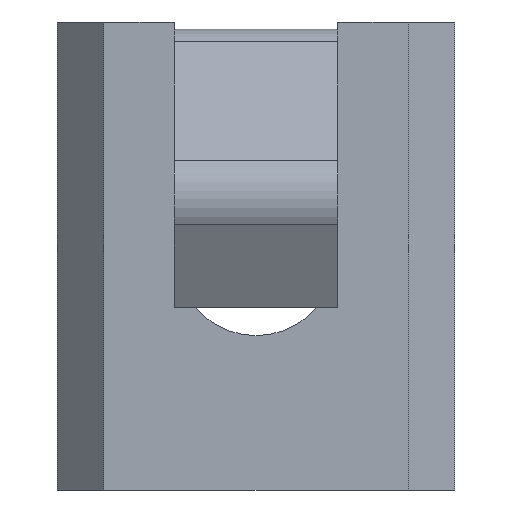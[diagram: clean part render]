
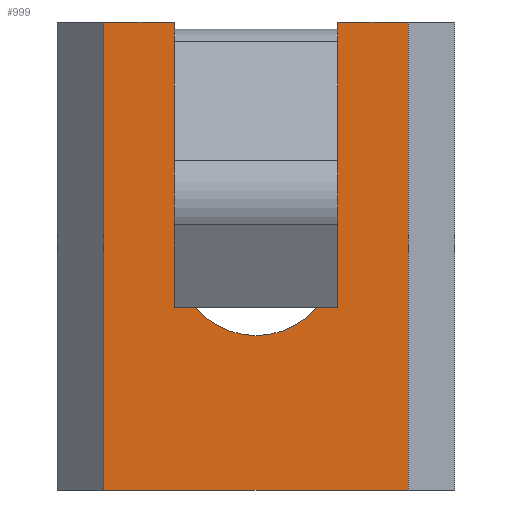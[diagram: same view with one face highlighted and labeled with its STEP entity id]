
A CAD part, front view. The second image highlights one B-rep face of the part: STEP entity #999.
In plain terms, the highlighted planar face has unit normal (0, -1, 0).
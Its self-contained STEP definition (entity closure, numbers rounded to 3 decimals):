
#4 = VERTEX_POINT ( 'NONE', #426 ) ;
#22 = VECTOR ( 'NONE', #395, 1000. ) ;
#41 = EDGE_CURVE ( 'NONE', #568, #517, #136, .T. ) ;
#51 = ORIENTED_EDGE ( 'NONE', *, *, #756, .F. ) ;
#54 = EDGE_CURVE ( 'NONE', #655, #572, #605, .T. ) ;
#59 = VECTOR ( 'NONE', #974, 1000. ) ;
#83 = CARTESIAN_POINT ( 'NONE',  ( -3.5, -7.5, 19.7 ) ) ;
#103 = ORIENTED_EDGE ( 'NONE', *, *, #877, .T. ) ;
#107 = CARTESIAN_POINT ( 'NONE',  ( 3.5, -7.5, 19.7 ) ) ;
#111 = VECTOR ( 'NONE', #1124, 1000. ) ;
#114 = VECTOR ( 'NONE', #139, 1000. ) ;
#132 = EDGE_CURVE ( 'NONE', #1020, #568, #451, .T. ) ;
#136 = LINE ( 'NONE', #660, #111 ) ;
#139 = DIRECTION ( 'NONE',  ( 0., 0., 1. ) ) ;
#140 = LINE ( 'NONE', #1037, #371 ) ;
#153 = VERTEX_POINT ( 'NONE', #847 ) ;
#161 = CARTESIAN_POINT ( 'NONE',  ( 3.5, -7.5, 17.5 ) ) ;
#171 = FACE_BOUND ( 'NONE', #178, .T. ) ;
#177 = CARTESIAN_POINT ( 'NONE',  ( 6.5, -7.5, 0. ) ) ;
#178 = EDGE_LOOP ( 'NONE', ( #305, #633 ) ) ;
#179 = VECTOR ( 'NONE', #742, 1000. ) ;
#190 = FACE_OUTER_BOUND ( 'NONE', #291, .T. ) ;
#217 = EDGE_CURVE ( 'NONE', #4, #153, #969, .T. ) ;
#236 = CARTESIAN_POINT ( 'NONE',  ( -6.5, -7.5, 20. ) ) ;
#241 = VECTOR ( 'NONE', #526, 1000. ) ;
#255 = LINE ( 'NONE', #161, #59 ) ;
#259 = DIRECTION ( 'NONE',  ( -1., 0., 0. ) ) ;
#288 = ORIENTED_EDGE ( 'NONE', *, *, #993, .F. ) ;
#291 = EDGE_LOOP ( 'NONE', ( #288, #525, #729, #51, #907, #598, #1052, #861, #103, #1009 ) ) ;
#292 = CARTESIAN_POINT ( 'NONE',  ( 6.5, -7.5, 20. ) ) ;
#301 = AXIS2_PLACEMENT_3D ( 'NONE', #335, #569, #983 ) ;
#303 = EDGE_CURVE ( 'NONE', #832, #851, #871, .T. ) ;
#305 = ORIENTED_EDGE ( 'NONE', *, *, #54, .T. ) ;
#333 = DIRECTION ( 'NONE',  ( 0., 0., 1. ) ) ;
#335 = CARTESIAN_POINT ( 'NONE',  ( 0., -7.5, 10. ) ) ;
#338 = CIRCLE ( 'NONE', #345, 3.4 ) ;
#345 = AXIS2_PLACEMENT_3D ( 'NONE', #934, #1154, #259 ) ;
#351 = PLANE ( 'NONE',  #620 ) ;
#371 = VECTOR ( 'NONE', #421, 1000. ) ;
#395 = DIRECTION ( 'NONE',  ( 1., 0., 0. ) ) ;
#421 = DIRECTION ( 'NONE',  ( 0., 0., -1. ) ) ;
#426 = CARTESIAN_POINT ( 'NONE',  ( -6.5, -7.5, 20. ) ) ;
#443 = LINE ( 'NONE', #639, #874 ) ;
#451 = LINE ( 'NONE', #292, #22 ) ;
#460 = CARTESIAN_POINT ( 'NONE',  ( 6.5, -7.5, 0. ) ) ;
#507 = CARTESIAN_POINT ( 'NONE',  ( 6.5, -7.5, 20. ) ) ;
#516 = LINE ( 'NONE', #177, #1013 ) ;
#517 = VERTEX_POINT ( 'NONE', #460 ) ;
#525 = ORIENTED_EDGE ( 'NONE', *, *, #978, .T. ) ;
#526 = DIRECTION ( 'NONE',  ( 1., 0., 0. ) ) ;
#537 = VERTEX_POINT ( 'NONE', #107 ) ;
#551 = VERTEX_POINT ( 'NONE', #83 ) ;
#568 = VERTEX_POINT ( 'NONE', #944 ) ;
#569 = DIRECTION ( 'NONE',  ( 0., 1., 0. ) ) ;
#572 = VERTEX_POINT ( 'NONE', #694 ) ;
#598 = ORIENTED_EDGE ( 'NONE', *, *, #41, .F. ) ;
#605 = CIRCLE ( 'NONE', #301, 3.4 ) ;
#608 = LINE ( 'NONE', #833, #114 ) ;
#620 = AXIS2_PLACEMENT_3D ( 'NONE', #1046, #672, #962 ) ;
#633 = ORIENTED_EDGE ( 'NONE', *, *, #935, .T. ) ;
#639 = CARTESIAN_POINT ( 'NONE',  ( 3.5, -7.5, 20. ) ) ;
#652 = CARTESIAN_POINT ( 'NONE',  ( -6.5, -7.5, 0. ) ) ;
#655 = VERTEX_POINT ( 'NONE', #1080 ) ;
#656 = DIRECTION ( 'NONE',  ( 0., 0., -1. ) ) ;
#660 = CARTESIAN_POINT ( 'NONE',  ( 6.5, -7.5, 20. ) ) ;
#672 = DIRECTION ( 'NONE',  ( 0., 1., 0. ) ) ;
#694 = CARTESIAN_POINT ( 'NONE',  ( 0., -7.5, 6.6 ) ) ;
#704 = CARTESIAN_POINT ( 'NONE',  ( 6.5, -7.5, 19.5 ) ) ;
#729 = ORIENTED_EDGE ( 'NONE', *, *, #217, .F. ) ;
#742 = DIRECTION ( 'NONE',  ( 1., 0., 0. ) ) ;
#756 = EDGE_CURVE ( 'NONE', #819, #4, #1057, .T. ) ;
#768 = CARTESIAN_POINT ( 'NONE',  ( 3.5, -7.5, 19.5 ) ) ;
#803 = EDGE_CURVE ( 'NONE', #1020, #537, #443, .T. ) ;
#819 = VERTEX_POINT ( 'NONE', #652 ) ;
#832 = VERTEX_POINT ( 'NONE', #919 ) ;
#833 = CARTESIAN_POINT ( 'NONE',  ( -3.5, -7.5, 20. ) ) ;
#847 = CARTESIAN_POINT ( 'NONE',  ( -3.5, -7.5, 20. ) ) ;
#851 = VERTEX_POINT ( 'NONE', #768 ) ;
#861 = ORIENTED_EDGE ( 'NONE', *, *, #803, .T. ) ;
#871 = LINE ( 'NONE', #704, #179 ) ;
#874 = VECTOR ( 'NONE', #656, 1000. ) ;
#877 = EDGE_CURVE ( 'NONE', #537, #851, #255, .T. ) ;
#894 = EDGE_CURVE ( 'NONE', #517, #819, #516, .T. ) ;
#907 = ORIENTED_EDGE ( 'NONE', *, *, #894, .F. ) ;
#919 = CARTESIAN_POINT ( 'NONE',  ( -3.5, -7.5, 19.5 ) ) ;
#934 = CARTESIAN_POINT ( 'NONE',  ( 0., -7.5, 10. ) ) ;
#935 = EDGE_CURVE ( 'NONE', #572, #655, #338, .T. ) ;
#944 = CARTESIAN_POINT ( 'NONE',  ( 6.5, -7.5, 20. ) ) ;
#957 = DIRECTION ( 'NONE',  ( -1., 0., 0. ) ) ;
#962 = DIRECTION ( 'NONE',  ( -1., 0., 0. ) ) ;
#969 = LINE ( 'NONE', #507, #241 ) ;
#974 = DIRECTION ( 'NONE',  ( 0., 0., -1. ) ) ;
#978 = EDGE_CURVE ( 'NONE', #551, #153, #608, .T. ) ;
#983 = DIRECTION ( 'NONE',  ( -1., 0., 0. ) ) ;
#993 = EDGE_CURVE ( 'NONE', #551, #832, #140, .T. ) ;
#999 = ADVANCED_FACE ( 'NONE', ( #171, #190 ), #351, .F. ) ;
#1009 = ORIENTED_EDGE ( 'NONE', *, *, #303, .F. ) ;
#1013 = VECTOR ( 'NONE', #957, 1000. ) ;
#1020 = VERTEX_POINT ( 'NONE', #1043 ) ;
#1023 = VECTOR ( 'NONE', #333, 1000. ) ;
#1037 = CARTESIAN_POINT ( 'NONE',  ( -3.5, -7.5, 17.5 ) ) ;
#1043 = CARTESIAN_POINT ( 'NONE',  ( 3.5, -7.5, 20. ) ) ;
#1046 = CARTESIAN_POINT ( 'NONE',  ( 6.5, -7.5, 20. ) ) ;
#1052 = ORIENTED_EDGE ( 'NONE', *, *, #132, .F. ) ;
#1057 = LINE ( 'NONE', #236, #1023 ) ;
#1080 = CARTESIAN_POINT ( 'NONE',  ( 0., -7.5, 13.4 ) ) ;
#1124 = DIRECTION ( 'NONE',  ( 0., 0., -1. ) ) ;
#1154 = DIRECTION ( 'NONE',  ( 0., 1., 0. ) ) ;
